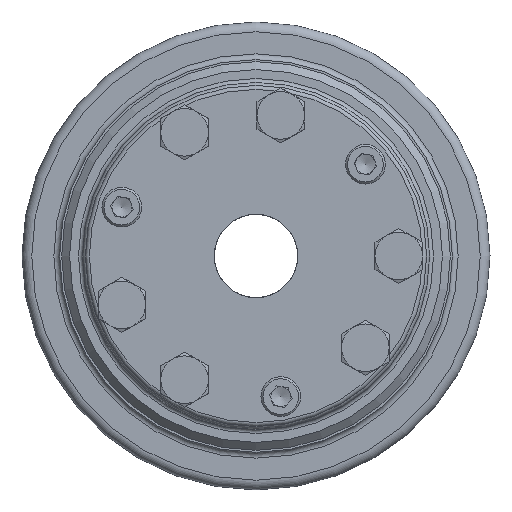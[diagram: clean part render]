
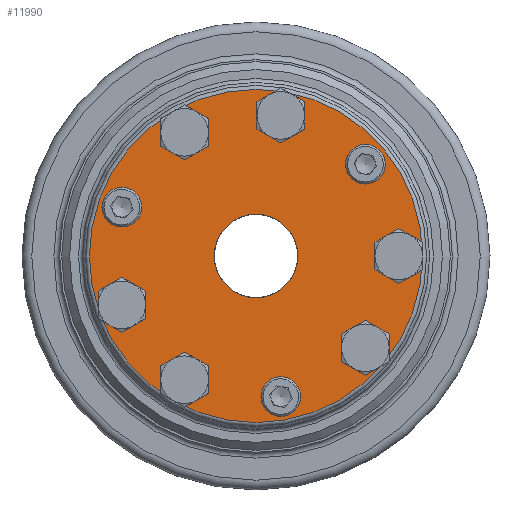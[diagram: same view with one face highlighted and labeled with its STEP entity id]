
A CAD part, left-side view. The second image highlights one B-rep face of the part: STEP entity #11990.
In plain terms, the highlighted planar face has unit normal (-1, 0, 0).
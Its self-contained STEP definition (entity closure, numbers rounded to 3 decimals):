
#1281=PLANE('',#12732);
#2075=ORIENTED_EDGE('',*,*,#3715,.T.);
#2076=ORIENTED_EDGE('',*,*,#3716,.T.);
#2077=ORIENTED_EDGE('',*,*,#3717,.F.);
#2078=ORIENTED_EDGE('',*,*,#3718,.F.);
#2079=ORIENTED_EDGE('',*,*,#3719,.F.);
#2080=ORIENTED_EDGE('',*,*,#3720,.F.);
#2081=ORIENTED_EDGE('',*,*,#3721,.F.);
#2082=ORIENTED_EDGE('',*,*,#3722,.F.);
#2083=ORIENTED_EDGE('',*,*,#3723,.F.);
#2084=ORIENTED_EDGE('',*,*,#3694,.F.);
#2085=ORIENTED_EDGE('',*,*,#3724,.T.);
#3694=EDGE_CURVE('',#5928,#5928,#4437,.T.);
#3715=EDGE_CURVE('',#5942,#5942,#4449,.F.);
#3716=EDGE_CURVE('',#5943,#5943,#4450,.F.);
#3717=EDGE_CURVE('',#5944,#5944,#4451,.T.);
#3718=EDGE_CURVE('',#5945,#5945,#4452,.T.);
#3719=EDGE_CURVE('',#5946,#5946,#4453,.T.);
#3720=EDGE_CURVE('',#5947,#5947,#4454,.T.);
#3721=EDGE_CURVE('',#5948,#5948,#4455,.T.);
#3722=EDGE_CURVE('',#5949,#5949,#4456,.T.);
#3723=EDGE_CURVE('',#5950,#5950,#4457,.T.);
#3724=EDGE_CURVE('',#5951,#5951,#4458,.T.);
#4437=CIRCLE('',#12714,21.);
#4449=CIRCLE('',#12733,10.);
#4450=CIRCLE('',#12734,10.);
#4451=CIRCLE('',#12735,11.25);
#4452=CIRCLE('',#12736,11.25);
#4453=CIRCLE('',#12737,11.25);
#4454=CIRCLE('',#12738,11.25);
#4455=CIRCLE('',#12739,11.25);
#4456=CIRCLE('',#12740,11.25);
#4457=CIRCLE('',#12741,10.);
#4458=CIRCLE('',#12742,84.);
#5055=EDGE_LOOP('',(#2075));
#5056=EDGE_LOOP('',(#2076));
#5057=EDGE_LOOP('',(#2077));
#5058=EDGE_LOOP('',(#2078));
#5059=EDGE_LOOP('',(#2079));
#5060=EDGE_LOOP('',(#2080));
#5061=EDGE_LOOP('',(#2081));
#5062=EDGE_LOOP('',(#2082));
#5063=EDGE_LOOP('',(#2083));
#5064=EDGE_LOOP('',(#2084));
#5065=EDGE_LOOP('',(#2085));
#5928=VERTEX_POINT('',#18278);
#5942=VERTEX_POINT('',#18320);
#5943=VERTEX_POINT('',#18322);
#5944=VERTEX_POINT('',#18324);
#5945=VERTEX_POINT('',#18326);
#5946=VERTEX_POINT('',#18328);
#5947=VERTEX_POINT('',#18330);
#5948=VERTEX_POINT('',#18332);
#5949=VERTEX_POINT('',#18334);
#5950=VERTEX_POINT('',#18336);
#5951=VERTEX_POINT('',#18338);
#6798=FACE_BOUND('',#5055,.T.);
#6799=FACE_BOUND('',#5056,.T.);
#6800=FACE_BOUND('',#5057,.T.);
#6801=FACE_BOUND('',#5058,.T.);
#6802=FACE_BOUND('',#5059,.T.);
#6803=FACE_BOUND('',#5060,.T.);
#6804=FACE_BOUND('',#5061,.T.);
#6805=FACE_BOUND('',#5062,.T.);
#6806=FACE_BOUND('',#5063,.T.);
#6807=FACE_BOUND('',#5064,.T.);
#6808=FACE_BOUND('',#5065,.T.);
#11990=ADVANCED_FACE('',(#6798,#6799,#6800,#6801,#6802,#6803,#6804,#6805,
#6806,#6807,#6808),#1281,.T.);
#12714=AXIS2_PLACEMENT_3D('',#18277,#14083,#14084);
#12732=AXIS2_PLACEMENT_3D('',#18318,#14128,#14129);
#12733=AXIS2_PLACEMENT_3D('',#18319,#14130,#14131);
#12734=AXIS2_PLACEMENT_3D('',#18321,#14132,#14133);
#12735=AXIS2_PLACEMENT_3D('',#18323,#14134,#14135);
#12736=AXIS2_PLACEMENT_3D('',#18325,#14136,#14137);
#12737=AXIS2_PLACEMENT_3D('',#18327,#14138,#14139);
#12738=AXIS2_PLACEMENT_3D('',#18329,#14140,#14141);
#12739=AXIS2_PLACEMENT_3D('',#18331,#14142,#14143);
#12740=AXIS2_PLACEMENT_3D('',#18333,#14144,#14145);
#12741=AXIS2_PLACEMENT_3D('',#18335,#14146,#14147);
#12742=AXIS2_PLACEMENT_3D('',#18337,#14148,#14149);
#14083=DIRECTION('',(-1.,0.,0.));
#14084=DIRECTION('',(0.,0.94,-0.342));
#14128=DIRECTION('',(-1.,0.,0.));
#14129=DIRECTION('',(0.,0.94,-0.342));
#14130=DIRECTION('',(-1.,0.,0.));
#14131=DIRECTION('',(0.,-1.,0.));
#14132=DIRECTION('',(-1.,0.,0.));
#14133=DIRECTION('',(0.,-1.,0.));
#14134=DIRECTION('',(-1.,0.,0.));
#14135=DIRECTION('',(0.,0.,-1.));
#14136=DIRECTION('',(-1.,0.,0.));
#14137=DIRECTION('',(0.,0.,-1.));
#14138=DIRECTION('',(-1.,0.,0.));
#14139=DIRECTION('',(0.,0.,-1.));
#14140=DIRECTION('',(-1.,0.,0.));
#14141=DIRECTION('',(0.,0.,-1.));
#14142=DIRECTION('',(-1.,0.,0.));
#14143=DIRECTION('',(0.,0.,-1.));
#14144=DIRECTION('',(-1.,0.,0.));
#14145=DIRECTION('',(0.,0.,-1.));
#14146=DIRECTION('',(-1.,0.,0.));
#14147=DIRECTION('',(0.,-1.,0.));
#14148=DIRECTION('',(-1.,0.,0.));
#14149=DIRECTION('',(0.,0.94,-0.342));
#18277=CARTESIAN_POINT('',(-164.8,0.,0.));
#18278=CARTESIAN_POINT('',(-164.8,19.734,-7.182));
#18318=CARTESIAN_POINT('',(-164.8,19.734,-7.182));
#18319=CARTESIAN_POINT('',(-164.8,-55.155,46.281));
#18320=CARTESIAN_POINT('',(-164.8,-65.155,46.281));
#18321=CARTESIAN_POINT('',(-164.8,-12.503,-70.906));
#18322=CARTESIAN_POINT('',(-164.8,-22.503,-70.906));
#18323=CARTESIAN_POINT('',(-164.8,-55.155,-46.281));
#18324=CARTESIAN_POINT('',(-164.8,-55.155,-57.531));
#18325=CARTESIAN_POINT('',(-164.8,36.,-62.354));
#18326=CARTESIAN_POINT('',(-164.8,36.,-73.604));
#18327=CARTESIAN_POINT('',(-164.8,-72.,0.));
#18328=CARTESIAN_POINT('',(-164.8,-72.,-11.25));
#18329=CARTESIAN_POINT('',(-164.8,-12.503,70.906));
#18330=CARTESIAN_POINT('',(-164.8,-12.503,59.656));
#18331=CARTESIAN_POINT('',(-164.8,36.,62.354));
#18332=CARTESIAN_POINT('',(-164.8,36.,51.104));
#18333=CARTESIAN_POINT('',(-164.8,67.658,-24.625));
#18334=CARTESIAN_POINT('',(-164.8,67.658,-35.875));
#18335=CARTESIAN_POINT('',(-164.8,67.658,24.625));
#18336=CARTESIAN_POINT('',(-164.8,57.658,24.625));
#18337=CARTESIAN_POINT('',(-164.8,0.,0.));
#18338=CARTESIAN_POINT('',(-164.8,78.934,-28.73));
